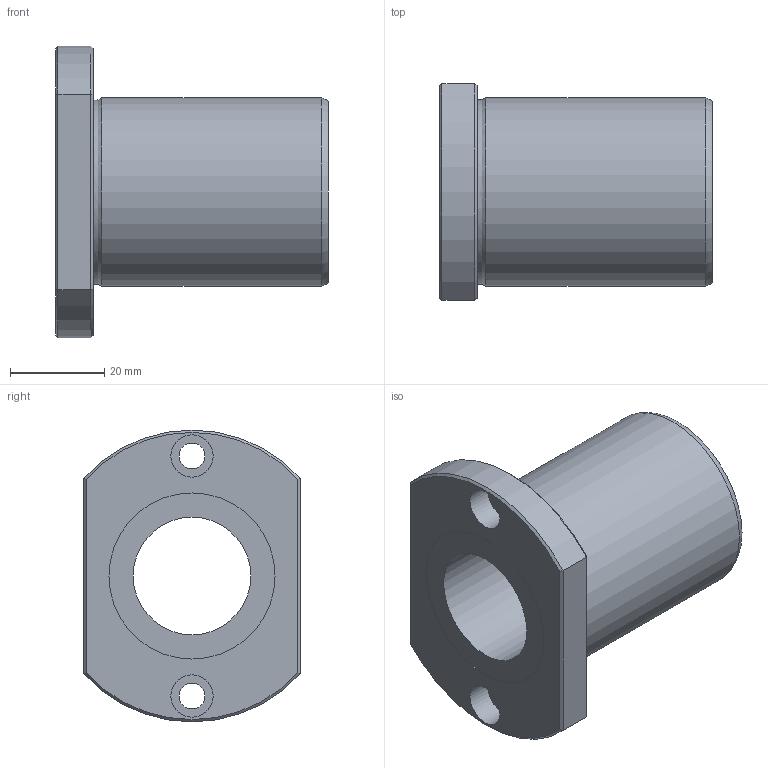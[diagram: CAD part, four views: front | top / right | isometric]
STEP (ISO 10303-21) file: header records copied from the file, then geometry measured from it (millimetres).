
FILE_DESCRIPTION((''),'2;1');
FILE_NAME('D:\製品 (図面)\カタログ用3D\リニアベアリング関連\STEP形式\LFT\LFT25.stp','2010-06-04T09:18:02',('Tsuchiya'),(''),'Autodesk Inventor 10','Autodesk Inventor 10','');
FILE_SCHEMA(('AUTOMOTIVE_DESIGN { 1 0 10303 214 1 1 1 1 }'));
Length unit declared in the file: millimetre
Products named in the file (1): LFT25
Bounding box: 58 x 46 x 62 mm (x, y, z)
Volume: 53772.2 mm3; surface area: 16664.7 mm2
Topology: 1 solids, 1 shells, 29 faces, 56 edges, 34 vertices
Faces by surface type: plane 13, cylinder 10, cone 4, torus 1, bspline 1
Full cylindrical faces by diameter (mm): 5.5 x2, 9 x2, 25 x1, 35.3 x2, 40 x1
Entity records: 787 total; most frequent: CARTESIAN_POINT 196, DIRECTION 122, ORIENTED_EDGE 92, AXIS2_PLACEMENT_3D 55, EDGE_LOOP 50, EDGE_CURVE 46, VERTEX_POINT 34, FACE_OUTER_BOUND 29
